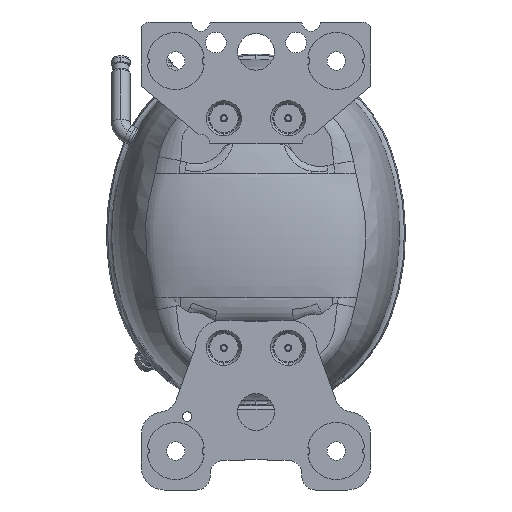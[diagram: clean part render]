
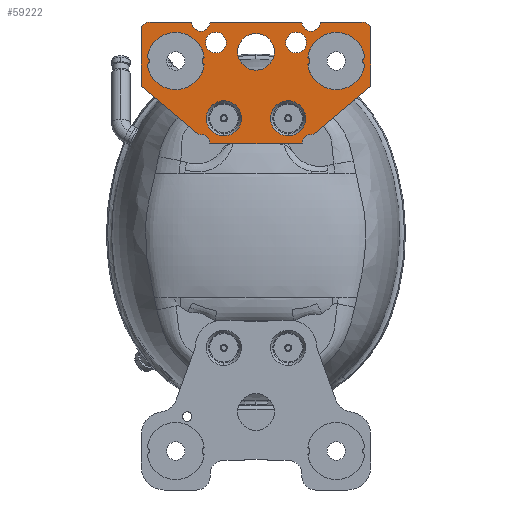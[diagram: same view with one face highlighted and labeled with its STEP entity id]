
A CAD part, front view. The second image highlights one B-rep face of the part: STEP entity #59222.
In plain terms, the highlighted planar face has unit normal (0, -1, 0) as drawn and (0, 0, -1) by its records, which use the part's own axes.
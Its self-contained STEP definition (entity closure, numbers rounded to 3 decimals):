
#58317=CARTESIAN_POINT('',(25.,-14.,0.));
#58318=DIRECTION('',(0.,0.,1.));
#58319=DIRECTION('',(-1.,0.,0.));
#58320=AXIS2_PLACEMENT_3D('',#58317,#58318,#58319);
#58322=CARTESIAN_POINT('',(25.,-14.,0.));
#58323=DIRECTION('',(0.,0.,1.));
#58324=DIRECTION('',(1.,0.,0.));
#58325=AXIS2_PLACEMENT_3D('',#58322,#58323,#58324);
#58327=CARTESIAN_POINT('',(25.,14.,0.));
#58328=DIRECTION('',(0.,0.,1.));
#58329=DIRECTION('',(-1.,0.,0.));
#58330=AXIS2_PLACEMENT_3D('',#58327,#58328,#58329);
#58332=CARTESIAN_POINT('',(25.,14.,0.));
#58333=DIRECTION('',(0.,0.,1.));
#58334=DIRECTION('',(1.,0.,0.));
#58335=AXIS2_PLACEMENT_3D('',#58332,#58333,#58334);
#58337=CARTESIAN_POINT('',(0.,35.,0.));
#58338=DIRECTION('',(0.,0.,-1.));
#58339=DIRECTION('',(1.,0.,0.));
#58340=AXIS2_PLACEMENT_3D('',#58337,#58338,#58339);
#58342=CARTESIAN_POINT('',(0.,35.,0.));
#58343=DIRECTION('',(0.,0.,-1.));
#58344=DIRECTION('',(-1.,0.,0.));
#58345=AXIS2_PLACEMENT_3D('',#58342,#58343,#58344);
#58347=CARTESIAN_POINT('',(0.,-35.,0.));
#58348=DIRECTION('',(0.,0.,-1.));
#58349=DIRECTION('',(1.,0.,0.));
#58350=AXIS2_PLACEMENT_3D('',#58347,#58348,#58349);
#58352=CARTESIAN_POINT('',(0.,-35.,0.));
#58353=DIRECTION('',(0.,0.,-1.));
#58354=DIRECTION('',(-1.,0.,0.));
#58355=AXIS2_PLACEMENT_3D('',#58352,#58353,#58354);
#58357=CARTESIAN_POINT('',(-8.,17.5,0.));
#58358=DIRECTION('',(0.,0.,-1.));
#58359=DIRECTION('',(1.,0.,0.));
#58360=AXIS2_PLACEMENT_3D('',#58357,#58358,#58359);
#58362=CARTESIAN_POINT('',(-8.,17.5,0.));
#58363=DIRECTION('',(0.,0.,-1.));
#58364=DIRECTION('',(-1.,0.,0.));
#58365=AXIS2_PLACEMENT_3D('',#58362,#58363,#58364);
#58367=CARTESIAN_POINT('',(-8.,-17.5,0.));
#58368=DIRECTION('',(0.,0.,-1.));
#58369=DIRECTION('',(1.,0.,0.));
#58370=AXIS2_PLACEMENT_3D('',#58367,#58368,#58369);
#58372=CARTESIAN_POINT('',(-8.,-17.5,0.));
#58373=DIRECTION('',(0.,0.,-1.));
#58374=DIRECTION('',(-1.,0.,0.));
#58375=AXIS2_PLACEMENT_3D('',#58372,#58373,#58374);
#58377=CARTESIAN_POINT('',(-4.,0.,0.));
#58378=DIRECTION('',(0.,0.,-1.));
#58379=DIRECTION('',(1.,0.,0.));
#58380=AXIS2_PLACEMENT_3D('',#58377,#58378,#58379);
#58382=CARTESIAN_POINT('',(-4.,0.,0.));
#58383=DIRECTION('',(0.,0.,-1.));
#58384=DIRECTION('',(-1.,0.,0.));
#58385=AXIS2_PLACEMENT_3D('',#58382,#58383,#58384);
#58387=CARTESIAN_POINT('',(-12.,46.,0.));
#58388=DIRECTION('',(0.,0.,1.));
#58389=DIRECTION('',(-0.6,0.8,0.));
#58390=AXIS2_PLACEMENT_3D('',#58387,#58388,#58389);
#58392=DIRECTION('',(0.,-1.,0.));
#58393=VECTOR('',#58392,18.);
#58394=CARTESIAN_POINT('',(-17.,46.,0.));
#58395=LINE('',#58394,#58393);
#58396=CARTESIAN_POINT('',(-17.,24.,0.));
#58397=DIRECTION('',(0.,0.,-1.));
#58398=DIRECTION('',(0.,1.,0.));
#58399=AXIS2_PLACEMENT_3D('',#58396,#58397,#58398);
#58401=DIRECTION('',(0.,-1.,0.));
#58402=VECTOR('',#58401,40.);
#58403=CARTESIAN_POINT('',(-17.,20.,0.));
#58404=LINE('',#58403,#58402);
#58405=CARTESIAN_POINT('',(-17.,-24.,0.));
#58406=DIRECTION('',(0.,0.,-1.));
#58407=DIRECTION('',(0.,1.,0.));
#58408=AXIS2_PLACEMENT_3D('',#58405,#58406,#58407);
#58410=DIRECTION('',(0.,-1.,0.));
#58411=VECTOR('',#58410,18.);
#58412=CARTESIAN_POINT('',(-17.,-28.,0.));
#58413=LINE('',#58412,#58411);
#58414=CARTESIAN_POINT('',(-12.,-46.,0.));
#58415=DIRECTION('',(0.,0.,1.));
#58416=DIRECTION('',(-1.,0.,0.));
#58417=AXIS2_PLACEMENT_3D('',#58414,#58415,#58416);
#58419=DIRECTION('',(1.,0.,0.));
#58420=VECTOR('',#58419,26.);
#58421=CARTESIAN_POINT('',(-15.,-50.,0.));
#58422=LINE('',#58421,#58420);
#58423=DIRECTION('',(0.643,0.766,0.));
#58424=VECTOR('',#58423,32.766);
#58425=CARTESIAN_POINT('',(11.,-50.,0.));
#58426=LINE('',#58425,#58424);
#58427=CARTESIAN_POINT('',(36.,-24.2,0.));
#58428=DIRECTION('',(0.,0.,-1.));
#58429=DIRECTION('',(-0.985,-0.175,0.));
#58430=AXIS2_PLACEMENT_3D('',#58427,#58428,#58429);
#58432=DIRECTION('',(0.,1.,0.));
#58433=VECTOR('',#58432,40.4);
#58434=CARTESIAN_POINT('',(36.,-20.2,0.));
#58435=LINE('',#58434,#58433);
#58436=CARTESIAN_POINT('',(36.,24.2,0.));
#58437=DIRECTION('',(0.,0.,-1.));
#58438=DIRECTION('',(0.,-1.,0.));
#58439=AXIS2_PLACEMENT_3D('',#58436,#58437,#58438);
#58441=DIRECTION('',(-0.643,0.766,0.));
#58442=VECTOR('',#58441,32.766);
#58443=CARTESIAN_POINT('',(32.062,24.9,0.));
#58444=LINE('',#58443,#58442);
#58445=DIRECTION('',(-1.,0.,0.));
#58446=VECTOR('',#58445,26.);
#58447=CARTESIAN_POINT('',(11.,50.,0.));
#58448=LINE('',#58447,#58446);
#58965=CARTESIAN_POINT('',(8.,35.,0.));
#58966=CARTESIAN_POINT('',(-8.,35.,0.));
#58967=VERTEX_POINT('',#58965);
#58968=VERTEX_POINT('',#58966);
#58969=CARTESIAN_POINT('',(8.,-35.,0.));
#58970=CARTESIAN_POINT('',(-8.,-35.,0.));
#58971=VERTEX_POINT('',#58969);
#58972=VERTEX_POINT('',#58970);
#58973=CARTESIAN_POINT('',(-17.,46.,0.));
#58974=CARTESIAN_POINT('',(-17.,28.,0.));
#58975=VERTEX_POINT('',#58973);
#58976=VERTEX_POINT('',#58974);
#58977=CARTESIAN_POINT('',(-17.,20.,0.));
#58978=VERTEX_POINT('',#58977);
#58979=CARTESIAN_POINT('',(-17.,-20.,0.));
#58980=VERTEX_POINT('',#58979);
#58981=CARTESIAN_POINT('',(-17.,-28.,0.));
#58982=VERTEX_POINT('',#58981);
#58983=CARTESIAN_POINT('',(-17.,-46.,0.));
#58984=VERTEX_POINT('',#58983);
#58985=CARTESIAN_POINT('',(-15.,-50.,0.));
#58986=CARTESIAN_POINT('',(11.,-50.,0.));
#58987=VERTEX_POINT('',#58985);
#58988=VERTEX_POINT('',#58986);
#58989=CARTESIAN_POINT('',(32.062,-24.9,0.));
#58990=VERTEX_POINT('',#58989);
#58991=CARTESIAN_POINT('',(36.,-20.2,0.));
#58992=VERTEX_POINT('',#58991);
#58993=CARTESIAN_POINT('',(36.,20.2,0.));
#58994=VERTEX_POINT('',#58993);
#58995=CARTESIAN_POINT('',(32.062,24.9,0.));
#58996=VERTEX_POINT('',#58995);
#58997=CARTESIAN_POINT('',(11.,50.,0.));
#58998=VERTEX_POINT('',#58997);
#58999=CARTESIAN_POINT('',(-15.,50.,0.));
#59000=VERTEX_POINT('',#58999);
#59045=CARTESIAN_POINT('',(32.655,14.,0.));
#59046=CARTESIAN_POINT('',(17.345,14.,0.));
#59047=VERTEX_POINT('',#59045);
#59048=VERTEX_POINT('',#59046);
#59087=CARTESIAN_POINT('',(32.655,-14.,0.));
#59088=CARTESIAN_POINT('',(17.345,-14.,0.));
#59089=VERTEX_POINT('',#59087);
#59090=VERTEX_POINT('',#59088);
#59121=CARTESIAN_POINT('',(-3.5,17.5,0.));
#59122=CARTESIAN_POINT('',(-12.5,17.5,0.));
#59123=VERTEX_POINT('',#59121);
#59124=VERTEX_POINT('',#59122);
#59125=CARTESIAN_POINT('',(-3.5,-17.5,0.));
#59126=CARTESIAN_POINT('',(-12.5,-17.5,0.));
#59127=VERTEX_POINT('',#59125);
#59128=VERTEX_POINT('',#59126);
#59137=CARTESIAN_POINT('',(4.,0.,0.));
#59138=CARTESIAN_POINT('',(-12.,0.,0.));
#59139=VERTEX_POINT('',#59137);
#59140=VERTEX_POINT('',#59138);
#59145=CARTESIAN_POINT('',(0.,0.,0.));
#59146=DIRECTION('',(0.,0.,1.));
#59147=DIRECTION('',(1.,0.,0.));
#59148=AXIS2_PLACEMENT_3D('',#59145,#59146,#59147);
#59149=PLANE('',#59148);
#59151=ORIENTED_EDGE('',*,*,#59150,.T.);
#59153=ORIENTED_EDGE('',*,*,#59152,.T.);
#59155=ORIENTED_EDGE('',*,*,#59154,.T.);
#59157=ORIENTED_EDGE('',*,*,#59156,.T.);
#59159=ORIENTED_EDGE('',*,*,#59158,.T.);
#59161=ORIENTED_EDGE('',*,*,#59160,.T.);
#59163=ORIENTED_EDGE('',*,*,#59162,.T.);
#59165=ORIENTED_EDGE('',*,*,#59164,.T.);
#59167=ORIENTED_EDGE('',*,*,#59166,.T.);
#59169=ORIENTED_EDGE('',*,*,#59168,.T.);
#59171=ORIENTED_EDGE('',*,*,#59170,.T.);
#59173=ORIENTED_EDGE('',*,*,#59172,.T.);
#59175=ORIENTED_EDGE('',*,*,#59174,.T.);
#59177=ORIENTED_EDGE('',*,*,#59176,.T.);
#59178=EDGE_LOOP('',(#59151,#59153,#59155,#59157,#59159,#59161,#59163,#59165,
#59167,#59169,#59171,#59173,#59175,#59177));
#59179=FACE_OUTER_BOUND('',#59178,.F.);
#59181=ORIENTED_EDGE('',*,*,#59180,.F.);
#59183=ORIENTED_EDGE('',*,*,#59182,.F.);
#59184=EDGE_LOOP('',(#59181,#59183));
#59185=FACE_BOUND('',#59184,.F.);
#59187=ORIENTED_EDGE('',*,*,#59186,.T.);
#59189=ORIENTED_EDGE('',*,*,#59188,.T.);
#59190=EDGE_LOOP('',(#59187,#59189));
#59191=FACE_BOUND('',#59190,.F.);
#59193=ORIENTED_EDGE('',*,*,#59192,.T.);
#59195=ORIENTED_EDGE('',*,*,#59194,.T.);
#59196=EDGE_LOOP('',(#59193,#59195));
#59197=FACE_BOUND('',#59196,.F.);
#59199=ORIENTED_EDGE('',*,*,#59198,.T.);
#59201=ORIENTED_EDGE('',*,*,#59200,.T.);
#59202=EDGE_LOOP('',(#59199,#59201));
#59203=FACE_BOUND('',#59202,.F.);
#59205=ORIENTED_EDGE('',*,*,#59204,.T.);
#59207=ORIENTED_EDGE('',*,*,#59206,.T.);
#59208=EDGE_LOOP('',(#59205,#59207));
#59209=FACE_BOUND('',#59208,.F.);
#59211=ORIENTED_EDGE('',*,*,#59210,.T.);
#59213=ORIENTED_EDGE('',*,*,#59212,.T.);
#59214=EDGE_LOOP('',(#59211,#59213));
#59215=FACE_BOUND('',#59214,.F.);
#59217=ORIENTED_EDGE('',*,*,#59216,.F.);
#59219=ORIENTED_EDGE('',*,*,#59218,.F.);
#59220=EDGE_LOOP('',(#59217,#59219));
#59221=FACE_BOUND('',#59220,.F.);
#59222=ADVANCED_FACE('',(#59179,#59185,#59191,#59197,#59203,#59209,#59215,
#59221),#59149,.F.);
#58321=CIRCLE('',#58320,7.655);
#58326=CIRCLE('',#58325,7.655);
#58331=CIRCLE('',#58330,7.655);
#58336=CIRCLE('',#58335,7.655);
#58341=CIRCLE('',#58340,8.);
#58346=CIRCLE('',#58345,8.);
#58351=CIRCLE('',#58350,8.);
#58356=CIRCLE('',#58355,8.);
#58361=CIRCLE('',#58360,4.5);
#58366=CIRCLE('',#58365,4.5);
#58371=CIRCLE('',#58370,4.5);
#58376=CIRCLE('',#58375,4.5);
#58381=CIRCLE('',#58380,8.);
#58386=CIRCLE('',#58385,8.);
#58391=CIRCLE('',#58390,5.);
#58400=CIRCLE('',#58399,4.);
#58409=CIRCLE('',#58408,4.);
#58418=CIRCLE('',#58417,5.);
#58431=CIRCLE('',#58430,4.);
#58440=CIRCLE('',#58439,4.);
#59150=EDGE_CURVE('',#59000,#58975,#58391,.T.);
#59152=EDGE_CURVE('',#58975,#58976,#58395,.T.);
#59154=EDGE_CURVE('',#58976,#58978,#58400,.T.);
#59156=EDGE_CURVE('',#58978,#58980,#58404,.T.);
#59158=EDGE_CURVE('',#58980,#58982,#58409,.T.);
#59160=EDGE_CURVE('',#58982,#58984,#58413,.T.);
#59162=EDGE_CURVE('',#58984,#58987,#58418,.T.);
#59164=EDGE_CURVE('',#58987,#58988,#58422,.T.);
#59166=EDGE_CURVE('',#58988,#58990,#58426,.T.);
#59168=EDGE_CURVE('',#58990,#58992,#58431,.T.);
#59170=EDGE_CURVE('',#58992,#58994,#58435,.T.);
#59172=EDGE_CURVE('',#58994,#58996,#58440,.T.);
#59174=EDGE_CURVE('',#58996,#58998,#58444,.T.);
#59176=EDGE_CURVE('',#58998,#59000,#58448,.T.);
#59180=EDGE_CURVE('',#59048,#59047,#58331,.T.);
#59182=EDGE_CURVE('',#59047,#59048,#58336,.T.);
#59186=EDGE_CURVE('',#58967,#58968,#58341,.T.);
#59188=EDGE_CURVE('',#58968,#58967,#58346,.T.);
#59192=EDGE_CURVE('',#58971,#58972,#58351,.T.);
#59194=EDGE_CURVE('',#58972,#58971,#58356,.T.);
#59198=EDGE_CURVE('',#59123,#59124,#58361,.T.);
#59200=EDGE_CURVE('',#59124,#59123,#58366,.T.);
#59204=EDGE_CURVE('',#59127,#59128,#58371,.T.);
#59206=EDGE_CURVE('',#59128,#59127,#58376,.T.);
#59210=EDGE_CURVE('',#59139,#59140,#58381,.T.);
#59212=EDGE_CURVE('',#59140,#59139,#58386,.T.);
#59216=EDGE_CURVE('',#59090,#59089,#58321,.T.);
#59218=EDGE_CURVE('',#59089,#59090,#58326,.T.);
